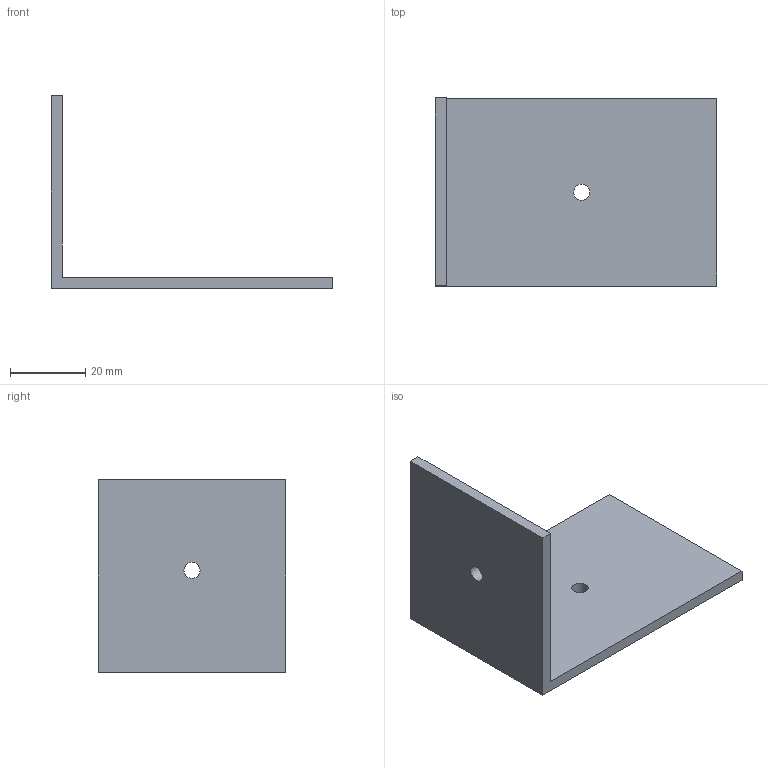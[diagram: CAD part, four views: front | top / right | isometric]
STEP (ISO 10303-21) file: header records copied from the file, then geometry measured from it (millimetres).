
FILE_DESCRIPTION(('Mechanical CAD reference from nasji.com'),'2;1');
FILE_NAME('NASJI.step','',(''),(''),'','NASJI distribution','');
FILE_SCHEMA(('AUTOMOTIVE_DESIGN { 1 0 10303 214 1 1 1 1 }'));
Length unit declared in the file: millimetre
Products named in the file (1): Open CASCADE STEP translator 7.8 162
Bounding box: 75 x 50 x 51.3 mm (x, y, z)
Volume: 18407.9 mm3; surface area: 13392.8 mm2
Topology: 1 solids, 1 shells, 10 faces, 24 edges, 16 vertices
Faces by surface type: plane 8, cylinder 2
Full cylindrical faces by diameter (mm): 4.3 x2
Entity records: 626 total; most frequent: CARTESIAN_POINT 113, DIRECTION 94, LINE 62, VECTOR 62, ORIENTED_EDGE 48, PCURVE 48, DEFINITIONAL_REPRESENTATION 48, EDGE_CURVE 24
